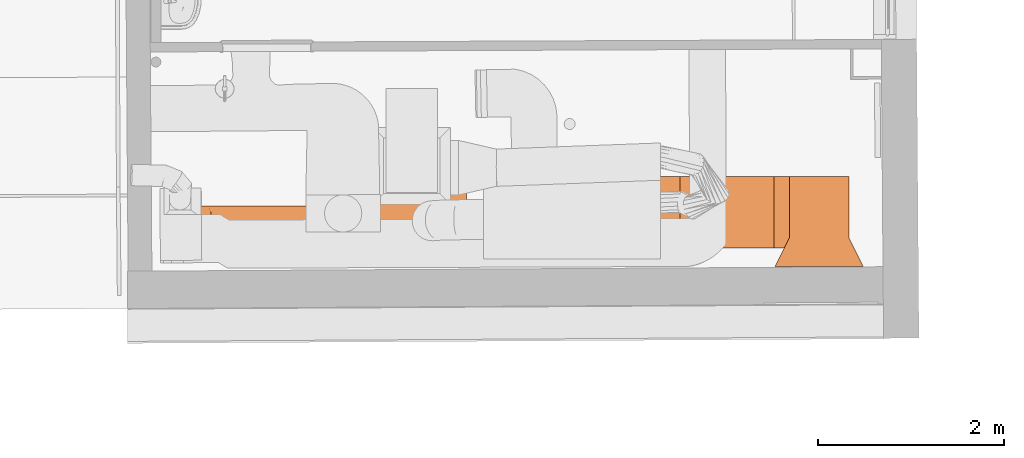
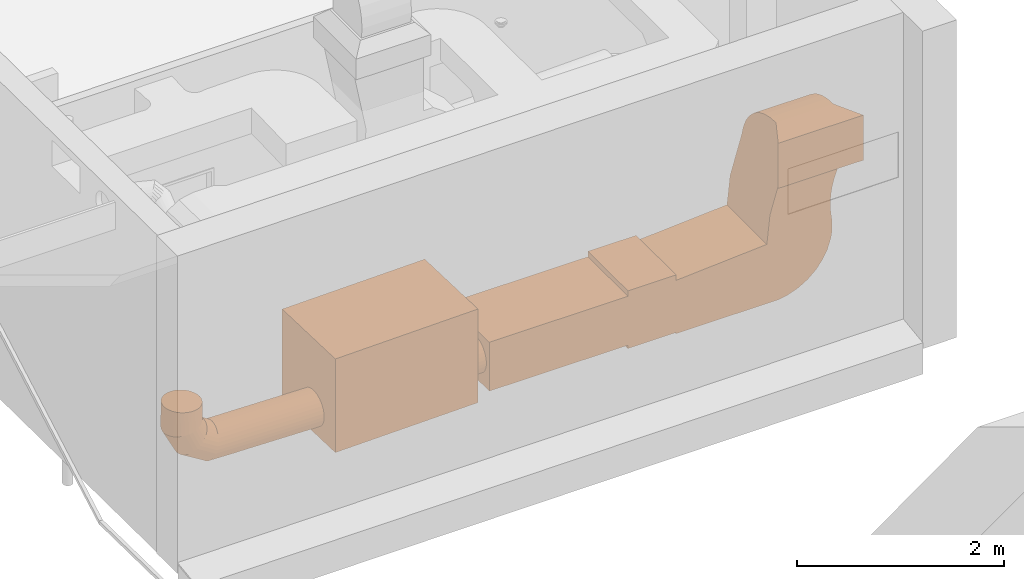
# One storey, part 146 of 158: 1 proxy.
"""IFC2X3 building model written with IfcOpenShell, lengths in metres."""

from ifc_helpers import new_model, entity, si_unit, converted_unit, derived_unit, money_unit, direction, origin_with_axes, place, context, subcontext, project, spatial, faceted_brep, material, type_object, element, save


model = new_model("IFC2X3")

# Units and contexts
model_context = context("Model", 3, precision=1e-05, world=origin_with_axes(), true_north=direction((0.0, 1.0)))
body_context = subcontext(model_context, "Body", "Model", "MODEL_VIEW")
ifc_project = project(units=[si_unit("LENGTHUNIT", "METRE"), si_unit("AREAUNIT", "SQUARE_METRE"), si_unit("VOLUMEUNIT", "CUBIC_METRE"), converted_unit("PLANEANGLEUNIT", "DEGREE", entity("IfcPlaneAngleMeasure", 0.0174532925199), si_unit("PLANEANGLEUNIT", "RADIAN"), dimensions=[0, 0, 0, 0, 0, 0, 0]), money_unit("EUR"), converted_unit("TIMEUNIT", "Year", entity("IfcTimeMeasure", 31556926.0), si_unit("TIMEUNIT", "SECOND"), dimensions=[0, 0, 1, 0, 0, 0, 0]), si_unit("MASSUNIT", "GRAM", prefix="KILO"), si_unit("THERMODYNAMICTEMPERATUREUNIT", "DEGREE_CELSIUS"), si_unit("LUMINOUSINTENSITYUNIT", "LUMEN"), si_unit("ENERGYUNIT", "JOULE", prefix="MEGA"), derived_unit("THERMALCONDUCTANCEUNIT", [(si_unit("POWERUNIT", "WATT"), 1), (si_unit("LENGTHUNIT", "METRE"), -1), (si_unit("THERMODYNAMICTEMPERATUREUNIT", "KELVIN"), -1)]), derived_unit("SPECIFICHEATCAPACITYUNIT", [(si_unit("ENERGYUNIT", "JOULE"), 1), (si_unit("MASSUNIT", "GRAM", prefix="KILO"), -1), (si_unit("THERMODYNAMICTEMPERATUREUNIT", "KELVIN"), -1)]), derived_unit("MASSDENSITYUNIT", [(si_unit("MASSUNIT", "GRAM", prefix="KILO"), 1), (si_unit("VOLUMEUNIT", "CUBIC_METRE"), -1)])], contexts=[model_context])

# Site, building, storey
site_placement = place(None, origin_with_axes())
site = spatial("IfcSite", under=ifc_project, at=site_placement, Name="Gelände", CompositionType="ELEMENT")
building_placement = place(site_placement, origin_with_axes())
building = spatial("IfcBuilding", under=site, at=building_placement, Name="Gebäude", CompositionType="ELEMENT")
storey_placement = place(building_placement, origin_with_axes())
storey = spatial("IfcBuildingStorey", under=building, at=storey_placement, Name="ERDGESCHOSS", CompositionType="ELEMENT", Elevation=0.0)

# Proxy
ifc_material = material(Name="56_Metall, Stahl verzinkt")
building_element_proxy_type = type_object("IfcBuildingElementProxyType", Name="56_Metall, Stahl verzinkt", PredefinedType="NOTDEFINED")
proxy_placement = place(storey_placement, origin_with_axes())
element("IfcBuildingElementProxy", 1, at=proxy_placement, inside=storey, type_object=building_element_proxy_type, material=ifc_material, Name="Morph-329", context=body_context, shape_type="Brep", body=[
    faceted_brep([(-22.8355656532, 31.6433372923, 1.6830409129), (-22.8256352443, 31.6247072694, 1.71735486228), (-23.0716475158, 31.6453656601, 1.82907403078), (-22.5718324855, 31.6421916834, 1.67569865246), (-23.0455167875, 31.626842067, 1.85360860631), (-23.0945396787, 31.6702777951, 1.80756929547), (-22.572284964, 31.6670637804, 1.64538267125), (-22.5713268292, 31.6237102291, 1.71028590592), (-23.1936140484, 31.6231309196, 2.0806824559), (-22.8147344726, 31.6131656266, 1.75458766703), (-23.2257104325, 31.6460790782, 2.07374925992), (-22.8441440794, 31.6683397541, 1.65296448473), (-22.5371284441, 31.6671013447, 1.64538267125), (-22.5371018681, 31.6422287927, 1.67569865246), (-22.5370821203, 31.6237468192, 1.71028590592), (-23.1576021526, 31.606825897, 2.08859248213), (-23.0171516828, 31.6154188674, 1.88023017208), (-23.2526578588, 31.6747884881, 2.06805933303), (-23.1133135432, 31.7006211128, 1.78992081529), (-22.572666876, 31.6973706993, 1.62050298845), (-22.5371608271, 31.697408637, 1.62050298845), (-21.6140948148, 31.6680875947, 1.62330063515), (-21.6140682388, 31.6432150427, 1.65361661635), (-22.570787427, 31.6123296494, 1.74781526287), (-21.6140484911, 31.6247330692, 1.68820386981), (-22.5370699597, 31.6123656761, 1.74781526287), (-23.1932231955, 31.6420939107, 2.35013697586), (-23.1586656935, 31.6236119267, 2.34870269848), (-22.8032822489, 31.6091559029, 1.79330849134), (-23.2235130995, 31.6669664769, 2.3513941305), (-22.8510408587, 31.6987538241, 1.62828139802), (-22.572963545, 31.7319477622, 1.60201571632), (-22.5371977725, 31.7319859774, 1.60201571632), (-21.6141271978, 31.698394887, 1.59842095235), (-21.6100756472, 31.6432193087, 1.65361661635), (-21.6106993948, 31.6680912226, 1.62330063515), (-21.6140363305, 31.6133519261, 1.72573322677), (-21.609612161, 31.6247378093, 1.68820386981), (-22.5370658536, 31.6085227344, 1.78684449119), (-22.570235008, 31.6084872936, 1.78684449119), (-23.1211686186, 31.6122307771, 2.34714641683), (-23.119058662, 31.5977906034, 2.09717536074), (-22.987642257, 31.6115350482, 1.90791567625), (-23.2483713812, 31.6972737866, 2.35242585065), (-23.2734207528, 31.7081558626, 2.06383133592), (-23.12724764, 31.7352295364, 1.77680681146), (-22.5731635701, 31.7694661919, 1.59063131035), (-22.5372378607, 31.7695045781, 1.59063131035), (-21.6141641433, 31.7329722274, 1.57993368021), (-21.6114594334, 31.6983977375, 1.59842095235), (-21.6040685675, 31.4036871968, 1.46866222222), (-21.6040685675, 31.4036871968, 2.57138322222), (-21.6287501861, 32.3878659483, 2.57138322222), (-21.6287501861, 32.3878659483, 1.46866222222), (-21.6123265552, 31.7329741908, 1.57993368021), (-21.6132674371, 31.770491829, 1.56854927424), (-21.6142459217, 31.8095088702, 1.56470523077), (-21.6152244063, 31.8485259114, 1.56857168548), (-21.6161652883, 31.8860435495, 1.57997764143), (-21.61703241, 31.9206200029, 1.59848477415), (-21.6177924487, 31.9509265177, 1.62338186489), (-21.6184161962, 31.9757984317, 1.65371213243), (-21.6188796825, 31.994279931, 1.68831000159), (-21.6191650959, 32.0056607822, 1.72584589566), (-21.6192614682, 32.0095036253, 1.76487733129), (-21.6191650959, 32.0056607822, 1.80390435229), (-21.6188796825, 31.994279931, 1.84142717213), (-21.6184161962, 31.9757984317, 1.87600380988), (-21.6177924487, 31.9509265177, 1.90630550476), (-21.61703241, 31.9206200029, 1.93116777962), (-21.6161652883, 31.8860435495, 1.94963519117), (-21.6152244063, 31.8485259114, 1.96099804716), (-21.6142459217, 31.8095088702, 1.96481967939), (-21.6132674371, 31.770491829, 1.96097563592), (-21.6123265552, 31.7329741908, 1.94959122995), (-21.6114594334, 31.6983977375, 1.93110395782), (-21.6106993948, 31.6680912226, 1.90622427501), (-21.6100756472, 31.6432193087, 1.87590829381), (-21.609612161, 31.6247378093, 1.84132104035), (-21.6093267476, 31.6133569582, 1.80379168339), (-21.6092303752, 31.6095141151, 1.76476245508), (-21.6093267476, 31.6133569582, 1.72573322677), (-21.6140322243, 31.6095089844, 1.76476245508), (-22.5696908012, 31.6123308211, 1.8258737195), (-22.5370699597, 31.6123656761, 1.8258737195), (-23.0056802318, 31.6236119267, 2.34235317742), (-22.9711227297, 31.6420939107, 2.34091890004), (-22.9408328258, 31.6669664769, 2.3396617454), (-22.915974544, 31.6972737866, 2.33863002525), (-22.8975031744, 31.7318511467, 2.33786338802), (-22.8861285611, 31.7693697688, 2.33739129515), (-22.8822878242, 31.8083878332, 2.33723188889), (-22.8861285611, 31.8474058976, 2.33739129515), (-22.8975031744, 31.8849245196, 2.33786338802), (-22.915974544, 31.9195018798, 2.33863002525), (-22.9408328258, 31.9498091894, 2.3396617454), (-22.9711227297, 31.9746817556, 2.34091890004), (-23.0056802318, 31.9931637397, 2.34235317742), (-23.0431773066, 32.0045448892, 2.34390945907), (-23.0821729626, 32.0083878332, 2.34552793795), (-23.1211686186, 32.0045448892, 2.34714641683), (-23.1586656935, 31.9931637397, 2.34870269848), (-23.1932231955, 31.9746817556, 2.35013697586), (-23.2235130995, 31.9498091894, 2.3513941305), (-23.2483713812, 31.9195018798, 2.35242585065), (-23.2668427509, 31.8849245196, 2.35319248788), (-23.2782173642, 31.8474058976, 2.35366458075), (-23.282058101, 31.8083878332, 2.35382398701), (-23.2782173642, 31.7693697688, 2.35366458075), (-23.2668427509, 31.7318511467, 2.35319248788), (-23.0821729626, 31.6083878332, 2.34552793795), (-23.0431773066, 31.6122307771, 2.34390945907), (-22.7917186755, 31.6128321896, 1.83202931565), (-22.8559909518, 31.7334107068, 1.60994020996), (-22.5732592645, 31.8084841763, 1.58678726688), (-22.537279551, 31.8085226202, 1.58678726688), (-21.6142042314, 31.7704908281, 1.56854927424), (-19.9919052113, 31.4441176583, 1.46866222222), (-19.9919052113, 31.4441176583, 2.57138322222), (-20.0165868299, 32.4282964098, 2.57138322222), (-20.0165868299, 32.4282964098, 1.46866222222), (-22.5373212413, 31.8475406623, 1.59063131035), (-22.5373613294, 31.885059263, 1.60201571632), (-22.5373982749, 31.9196366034, 1.62050298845), (-22.5374306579, 31.9499438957, 1.64538267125), (-22.5374572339, 31.9748164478, 1.67569865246), (-22.5374769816, 31.9932984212, 1.71028590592), (-22.5374891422, 32.0046795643, 1.74781526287), (-22.5374932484, 32.0085225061, 1.78684449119), (-22.5374891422, 32.0046795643, 1.8258737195), (-22.5374769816, 31.9932984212, 1.86340307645), (-22.5374572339, 31.9748164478, 1.89799032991), (-22.5374306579, 31.9499438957, 1.92830631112), (-22.5373982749, 31.9196366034, 1.95318599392), (-22.5373613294, 31.885059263, 1.97167326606), (-22.5373212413, 31.8475406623, 1.98305767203), (-22.537279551, 31.8085226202, 1.9869017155), (-21.6142042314, 31.7704908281, 1.96097563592), (-21.6141641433, 31.7329722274, 1.94959122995), (-21.6141271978, 31.698394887, 1.93110395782), (-21.6140948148, 31.6680875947, 1.90622427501), (-21.6140682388, 31.6432150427, 1.87590829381), (-21.6140484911, 31.6247330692, 1.84132104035), (-21.6140363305, 31.6133519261, 1.80379168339), (-22.5370821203, 31.6237468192, 1.86340307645), (-22.5691757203, 31.6237125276, 1.86340307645), (-23.003194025, 31.6163096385, 2.12361003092), (-22.9694481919, 31.6368991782, 2.13152005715), (-22.9404014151, 31.6636027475, 2.13845325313), (-22.9171699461, 31.6953941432, 2.14414318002), (-22.9006465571, 31.7310516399, 2.14837117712), (-22.8914662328, 31.7692049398, 2.15097476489), (-22.8899817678, 31.8083878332, 2.15185388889), (-22.8962502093, 31.8470945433, 2.15097476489), (-22.9100306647, 31.883837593, 2.14837117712), (-22.9307935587, 31.9172049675, 2.14414318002), (-22.9577409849, 31.9459143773, 2.13845325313), (-22.989837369, 31.968862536, 2.13152005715), (-23.0258492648, 31.9851675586, 2.12361003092), (-23.0643927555, 31.9942028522, 2.1150271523), (-23.1039866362, 31.9956211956, 2.10610125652), (-23.1431093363, 31.9893680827, 2.09717536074), (-23.1802573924, 31.9756838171, 2.08859248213), (-23.2140032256, 31.9550942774, 2.0806824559), (-23.2430500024, 31.9283907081, 2.07374925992), (-23.2662814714, 31.8965993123, 2.06805933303), (-23.2828048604, 31.8609418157, 2.06383133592), (-23.2919851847, 31.8227885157, 2.06122774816), (-23.2934696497, 31.7836056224, 2.06034862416), (-23.2872012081, 31.7448989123, 2.06122774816), (-23.0794647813, 31.5963722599, 2.10610125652), (-23.0403420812, 31.6026253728, 2.1150271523), (-22.9581225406, 31.6153398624, 1.93560118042), (-23.1358064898, 31.7727730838, 1.76873124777), (-22.8588041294, 31.7709785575, 1.59864576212), (-22.5732469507, 31.8475022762, 1.59063131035), (-19.9969415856, 31.6449429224, 1.65361661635), (-19.9964780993, 31.626461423, 1.68820386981), (-19.9961926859, 31.6150805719, 1.72573322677), (-19.9960963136, 31.6112377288, 1.76476245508), (-19.9961926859, 31.6150805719, 1.80379168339), (-19.9964780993, 31.626461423, 1.84132104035), (-19.9969415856, 31.6449429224, 1.87590829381), (-19.9975653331, 31.6698148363, 1.90622427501), (-19.9983253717, 31.7001213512, 1.93110395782), (-19.9991924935, 31.7346978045, 1.94959122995), (-20.0001333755, 31.7722154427, 1.96097563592), (-20.0011118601, 31.8112324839, 1.96481967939), (-20.0020903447, 31.8502495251, 1.96097563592), (-20.0030312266, 31.8877671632, 1.94959122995), (-20.0038983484, 31.9223436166, 1.93110395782), (-20.004658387, 31.9526501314, 1.90622427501), (-20.0052821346, 31.9775220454, 1.87590829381), (-20.0057456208, 31.9960035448, 1.84132104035), (-20.0060310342, 32.0073843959, 1.80379168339), (-20.0061274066, 32.011227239, 1.76476245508), (-20.0060310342, 32.0073843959, 1.72573322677), (-20.0057456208, 31.9960035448, 1.68820386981), (-20.0052821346, 31.9775220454, 1.65361661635), (-20.004658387, 31.9526501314, 1.62330063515), (-20.0038983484, 31.9223436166, 1.59842095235), (-20.0030312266, 31.8877671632, 1.57993368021), (-20.0020903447, 31.8502495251, 1.56854927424), (-20.0011118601, 31.8112324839, 1.56470523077), (-20.0001333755, 31.7722154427, 1.56854927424), (-19.9991924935, 31.7346978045, 1.57993368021), (-19.9983253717, 31.7001213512, 1.59842095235), (-19.9975653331, 31.6698148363, 1.62330063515), (-22.5731271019, 31.8850210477, 1.60201571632), (-22.5729043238, 31.9195986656, 1.62050298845), (-22.5725871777, 31.9499063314, 1.64538267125), (-22.5721878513, 31.9747793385, 1.67569865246), (-22.5717216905, 31.9932618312, 1.71028590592), (-22.5712066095, 32.0046435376, 1.74781526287), (-22.5706624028, 32.0084870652, 1.78684449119), (-22.5701099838, 32.0046447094, 1.8258737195), (-22.5695705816, 31.9932641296, 1.86340307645), (-22.5690649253, 31.9747826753, 1.89799032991), (-22.5686124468, 31.9499105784, 1.92830631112), (-22.5682305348, 31.9196036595, 1.95318599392), (-22.5679338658, 31.8850265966, 1.97167326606), (-22.5677338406, 31.8475081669, 1.98305767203), (-22.5676381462, 31.8084901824, 1.9869017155), (-22.5372378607, 31.7695045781, 1.98305767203), (-22.5371977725, 31.7319859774, 1.97167326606), (-22.5371608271, 31.697408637, 1.95318599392), (-22.5371284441, 31.6671013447, 1.92830631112), (-22.5371018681, 31.6422287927, 1.89799032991), (-22.7804881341, 31.6240532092, 1.8692621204), (-22.5687095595, 31.6421950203, 1.89799032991), (-22.8593722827, 31.8100136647, 1.59483209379), (-19.8014756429, 31.6451517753, 1.65361661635), (-19.8014756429, 31.6266697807, 1.68820386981), (-19.8014756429, 31.6152886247, 1.72573322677), (-19.8014756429, 31.6114456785, 1.76476245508), (-19.8014756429, 31.6152886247, 1.80379168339), (-19.8014756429, 31.6266697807, 1.84132104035), (-19.8014756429, 31.6451517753, 1.87590829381), (-19.8014756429, 31.6700243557, 1.90622427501), (-19.8014756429, 31.7003316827, 1.93110395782), (-19.8014756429, 31.7349090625, 1.94959122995), (-19.8014756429, 31.772427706, 1.96097563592), (-19.8014756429, 31.8114457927, 1.96481967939), (-19.8014756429, 31.8504638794, 1.96097563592), (-19.8014756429, 31.8879825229, 1.94959122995), (-19.8014756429, 31.9225599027, 1.93110395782), (-19.8014756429, 31.9528672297, 1.90622427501), (-19.8014756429, 31.9777398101, 1.87590829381), (-19.8014756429, 31.9962218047, 1.84132104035), (-19.8014756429, 32.0076029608, 1.80379168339), (-19.8014756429, 32.0114459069, 1.76476245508), (-19.8014756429, 32.0076029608, 1.72573322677), (-19.8014756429, 31.9962218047, 1.68820386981), (-19.8014756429, 31.9777398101, 1.65361661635), (-19.8014756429, 31.9528672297, 1.62330063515), (-19.8014756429, 31.9225599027, 1.59842095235), (-19.8014756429, 31.8879825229, 1.57993368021), (-19.8014756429, 31.8504638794, 1.56854927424), (-19.8014756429, 31.8114457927, 1.56470523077), (-19.8014756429, 31.772427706, 1.56854927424), (-19.8014756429, 31.7349090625, 1.57993368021), (-19.8014756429, 31.7003316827, 1.59842095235), (-19.8014756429, 31.6700243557, 1.62330063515), (-22.8576735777, 31.8490159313, 1.59864576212), (-22.8537732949, 31.886486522, 1.60994020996), (-22.8478213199, 31.920985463, 1.62828139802), (-22.8400463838, 31.9511869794, 1.65296448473), (-22.8307472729, 31.9759304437, 1.6830409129), (-22.8202813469, 31.9942649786, 1.71735486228), (-22.8090508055, 32.0054859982, 1.75458766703), (-22.7974872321, 32.0091622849, 1.79330849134), (-22.7860350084, 32.0051525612, 1.83202931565), (-22.7751342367, 31.9936109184, 1.8692621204), (-22.7652038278, 31.9749808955, 1.90357606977), (-22.7566254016, 31.9499784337, 1.93365249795), (-22.7497286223, 31.9195643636, 1.95833558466), (-22.7447785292, 31.884907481, 1.97667677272), (-22.7419653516, 31.8473396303, 1.98797122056), (-22.5676504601, 31.7694720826, 1.98305767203), (-22.5677703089, 31.7319533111, 1.97167326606), (-22.567993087, 31.6973756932, 1.95318599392), (-22.5683102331, 31.6670680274, 1.92830631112), (-22.7700222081, 31.6423877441, 1.90357606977), (-22.9297269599, 31.6266870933, 1.96222274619), (-22.903546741, 31.6451406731, 1.98675732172), (-22.8805879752, 31.669991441, 2.00826205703), (-22.8617329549, 31.700284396, 2.0259105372), (-22.8477062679, 31.7348553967, 2.03902454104), (-22.839046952, 31.7723758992, 2.04710010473), (-22.8360877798, 31.8114040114, 2.04982688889), (-22.8389424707, 31.8504399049, 2.04710010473), (-22.8475013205, 31.8879834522, 2.03902454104), (-22.8614354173, 31.9225918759, 2.0259105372), (-22.8802092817, 31.9529351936, 2.00826205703), (-22.9031014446, 31.9778473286, 1.98675732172), (-22.929232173, 31.9963709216, 1.96222274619), (-22.9575972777, 32.0077941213, 1.93560118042), (-22.9871067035, 32.0116779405, 1.90791567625), (-23.0166264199, 32.0078731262, 1.88023017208), (-23.0450220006, 31.9965258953, 1.85360860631), (-23.0712022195, 31.9780723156, 1.82907403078), (-23.0941609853, 31.9532215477, 1.80756929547), (-23.1130160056, 31.9229285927, 1.78992081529), (-23.1270426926, 31.8883575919, 1.77680681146), (-23.1357020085, 31.8508370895, 1.76873124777), (-23.1386611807, 31.8118089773, 1.76600446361), (-19.8014756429, 31.556467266, 1.46866222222), (-19.8014756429, 31.556467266, 2.04505022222), (-19.8014756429, 32.3267529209, 2.04505022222), (-19.8014756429, 32.3267529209, 1.46866222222), (-22.7413971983, 31.808304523, 1.99178488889), (-22.7430959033, 31.7693022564, 1.98797122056), (-22.7469961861, 31.7318316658, 1.97667677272), (-22.7529481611, 31.6973327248, 1.95833558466), (-22.7607230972, 31.6671312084, 1.93365249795), (-18.2565736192, 31.556467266, 1.46866222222), (-18.2565736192, 31.556467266, 1.43026222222), (-17.7204124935, 31.556467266, 1.43026222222), (-17.7204124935, 31.556467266, 1.41761822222), (-16.7095032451, 31.556467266, 1.41761822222), (-16.5896255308, 31.556467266, 1.41731679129), (-16.4716319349, 31.556467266, 1.43848914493), (-16.3593377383, 31.556467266, 1.48045068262), (-16.2563739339, 31.556467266, 1.54184459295), (-16.1660698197, 31.556467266, 1.62068572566), (-16.0913453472, 31.556467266, 1.71442478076), (-16.0346167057, 31.556467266, 1.82003073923), (-15.9977181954, 31.556467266, 1.93408886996), (-15.9915823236, 31.556467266, 1.96488059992), (-15.9868663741, 31.556467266, 1.99592153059), (-15.9835802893, 31.556467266, 2.0271462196), (-15.9817309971, 31.556467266, 2.05848883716), (-15.9813223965, 31.556467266, 2.08988330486), (-15.9823553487, 31.556467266, 2.12126343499), (-15.9848276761, 31.556467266, 2.15256307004), (-15.9887341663, 31.556467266, 2.18371622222), (-15.9978188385, 31.556467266, 2.25782792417), (-16.0013052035, 31.556467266, 2.33241291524), (-15.9991735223, 31.556467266, 2.40704890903), (-15.9914358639, 31.556467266, 2.48131333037), (-15.9781360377, 31.556467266, 2.55478570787), (-15.9593493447, 31.556467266, 2.62705005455), (-15.9351821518, 31.556467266, 2.69769722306), (-15.905771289, 31.556467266, 2.76632722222), (-15.905771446, 31.556467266, 2.89170022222), (-16.5440670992, 31.556467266, 2.89170022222), (-16.6745934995, 31.556467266, 2.44911422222), (-16.7095032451, 31.556467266, 2.11517322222), (-17.7204124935, 31.556467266, 2.04505022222), (-17.7204124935, 31.556467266, 2.10889022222), (-18.2565736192, 31.556467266, 2.10889022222), (-18.2565736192, 31.556467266, 2.04505022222), (-18.2565736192, 32.3267529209, 2.04505022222), (-18.2565736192, 32.3267529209, 2.10889022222), (-17.7204124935, 32.3267529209, 2.10889022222), (-17.7204124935, 32.3267529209, 2.04505022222), (-16.7095032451, 32.3267529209, 2.11517322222), (-16.6745934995, 32.3267529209, 2.44911422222), (-16.5440670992, 32.3267529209, 2.89170022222), (-15.905771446, 32.3267529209, 2.89170022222), (-15.905771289, 32.3267529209, 2.76632722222), (-15.9351821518, 32.3267529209, 2.69769722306), (-15.9593493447, 32.3267529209, 2.62705005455), (-15.9781360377, 32.3267529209, 2.55478570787), (-15.9914358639, 32.3267529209, 2.48131333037), (-15.9991735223, 32.3267529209, 2.40704890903), (-16.0013052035, 32.3267529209, 2.33241291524), (-15.9978188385, 32.3267529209, 2.25782792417), (-15.9887341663, 32.3267529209, 2.18371622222), (-15.9848276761, 32.3267529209, 2.15256307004), (-15.9823553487, 32.3267529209, 2.12126343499), (-15.9813223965, 32.3267529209, 2.08988330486), (-15.9817309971, 32.3267529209, 2.05848883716), (-15.9835802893, 32.3267529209, 2.0271462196), (-15.9868663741, 32.3267529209, 1.99592153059), (-15.9915823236, 32.3267529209, 1.96488059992), (-15.9977181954, 32.3267529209, 1.93408886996), (-16.0346167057, 32.3267529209, 1.82003073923), (-16.0913453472, 32.3267529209, 1.71442478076), (-16.1660698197, 32.3267529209, 1.62068572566), (-16.2563739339, 32.3267529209, 1.54184459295), (-16.3593377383, 32.3267529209, 1.48045068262), (-16.4716319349, 32.3267529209, 1.43848914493), (-16.5896255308, 32.3267529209, 1.41731679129), (-16.7095032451, 32.3267529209, 1.41761822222), (-17.7204124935, 32.3267529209, 1.41761822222), (-17.7204124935, 32.3267529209, 1.43026222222), (-18.2565736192, 32.3267529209, 1.43026222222), (-18.2565736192, 32.3267529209, 1.46866222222), (-15.9057717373, 32.295272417, 3.00236090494), (-15.905771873, 32.244901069, 3.10579853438), (-15.905771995, 32.1771952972, 3.19881758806), (-15.9057720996, 32.0942472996, 3.27854365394), (-15.9057721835, 31.9986202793, 3.34251309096), (-15.9057722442, 31.893269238, 3.38874915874), (-15.9057722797, 31.7814496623, 3.41582310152), (-15.905772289, 31.6666169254, 3.42289829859), (-16.6985391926, 31.3562966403, 2.89170001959), (-15.7492884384, 31.3562964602, 2.89170126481), (-16.5440671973, 32.2952725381, 3.00236006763), (-16.5440673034, 32.2449011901, 3.10579769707), (-16.5440674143, 32.1771954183, 3.19881675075), (-16.5440675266, 32.0942474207, 3.27854281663), (-16.5440676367, 31.9986204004, 3.34251225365), (-16.5440677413, 31.8932693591, 3.38874832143), (-16.5440678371, 31.7814497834, 3.41582226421), (-16.5440679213, 31.6666170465, 3.42289746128), (-15.7492891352, 31.3562964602, 3.42289850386), (-16.6985400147, 31.3562966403, 3.42289725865)], [[[0, 1, 2]], [[1, 0, 3]], [[4, 2, 1]], [[2, 5, 0]], [[0, 6, 3]], [[7, 1, 3]], [[8, 2, 4]], [[4, 1, 9]], [[2, 10, 5]], [[11, 0, 5]], [[6, 0, 11]], [[3, 6, 12, 13]], [[1, 7, 9]], [[7, 3, 13, 14]], [[2, 8, 10]], [[15, 8, 4]], [[16, 4, 9]], [[5, 10, 17]], [[5, 18, 11]], [[6, 11, 19]], [[12, 6, 19, 20]], [[13, 12, 21, 22]], [[9, 7, 23]], [[24, 14, 13, 22]], [[25, 23, 7, 14]], [[10, 8, 26]], [[8, 15, 27]], [[15, 4, 16]], [[16, 9, 28]], [[10, 29, 17]], [[18, 5, 17]], [[18, 30, 11]], [[30, 19, 11]], [[19, 31, 32, 20]], [[20, 33, 21, 12]], [[34, 22, 21, 35]], [[28, 9, 23]], [[14, 24, 36, 25]], [[24, 22, 34, 37]], [[23, 25, 38, 39]], [[26, 8, 27]], [[10, 26, 29]], [[27, 15, 40]], [[15, 16, 41]], [[42, 16, 28]], [[17, 29, 43]], [[44, 18, 17]], [[18, 45, 30]], [[19, 30, 31]], [[31, 46, 47, 32]], [[32, 48, 33, 20]], [[33, 49, 35, 21]], [[50, 51, 52, 53], [37, 34, 35, 49, 54, 55, 56, 57, 58, 59, 60, 61, 62, 63, 64, 65, 66, 67, 68, 69, 70, 71, 72, 73, 74, 75, 76, 77, 78, 79, 80, 81]], [[23, 39, 28]], [[81, 36, 24, 37]], [[38, 25, 36, 82]], [[83, 39, 38, 84]], [[85, 86, 87, 88, 89, 90, 91, 92, 93, 94, 95, 96, 97, 98, 99, 100, 101, 102, 103, 104, 105, 106, 107, 108, 109, 43, 29, 26, 27, 40, 110, 111]], [[15, 41, 40]], [[16, 42, 41]], [[42, 28, 112]], [[44, 17, 43]], [[45, 18, 44]], [[45, 113, 30]], [[113, 31, 30]], [[31, 113, 46]], [[46, 114, 115, 47]], [[48, 32, 47, 116]], [[33, 48, 54, 49]], [[50, 117, 118, 51]], [[51, 118, 119, 52]], [[120, 53, 52, 119]], [[117, 50, 53, 120]], [[48, 116, 55, 54]], [[55, 116, 56]], [[115, 121, 57, 56]], [[57, 121, 122, 58]], [[122, 123, 59, 58]], [[123, 124, 60, 59]], [[124, 125, 61, 60]], [[61, 125, 126, 62]], [[62, 126, 127, 63]], [[127, 128, 64, 63]], [[65, 64, 128, 129]], [[65, 129, 130, 66]], [[131, 67, 66, 130]], [[67, 131, 132, 68]], [[133, 69, 68, 132]], [[69, 133, 134, 70]], [[71, 70, 134, 135]], [[72, 71, 135, 136]], [[72, 137, 73]], [[138, 74, 73, 137]], [[138, 139, 75, 74]], [[139, 140, 76, 75]], [[141, 77, 76, 140]], [[142, 78, 77, 141]], [[142, 143, 79, 78]], [[143, 82, 80, 79]], [[36, 81, 80, 82]], [[28, 39, 112]], [[82, 143, 84, 38]], [[83, 112, 39]], [[83, 84, 144, 145]], [[85, 146, 86]], [[147, 87, 86]], [[87, 148, 88]], [[149, 89, 88]], [[89, 150, 90]], [[90, 151, 91]], [[91, 152, 92]], [[92, 153, 93]], [[93, 154, 94]], [[94, 155, 95]], [[95, 156, 96]], [[157, 97, 96]], [[158, 98, 97]], [[98, 159, 99]], [[160, 100, 99]], [[161, 101, 100]], [[162, 102, 101]], [[163, 103, 102]], [[164, 104, 103]], [[165, 105, 104]], [[166, 106, 105]], [[167, 107, 106]], [[168, 108, 107]], [[108, 169, 109]], [[44, 43, 109]], [[40, 41, 110]], [[110, 170, 111]], [[171, 85, 111]], [[41, 42, 170]], [[172, 42, 112]], [[169, 45, 44]], [[45, 173, 113]], [[113, 174, 46]], [[174, 114, 46]], [[114, 175, 121, 115]], [[116, 47, 115, 56]], [[118, 117, 120, 119], [176, 177, 178, 179, 180, 181, 182, 183, 184, 185, 186, 187, 188, 189, 190, 191, 192, 193, 194, 195, 196, 197, 198, 199, 200, 201, 202, 203, 204, 205, 206, 207]], [[175, 208, 122, 121]], [[122, 208, 209, 123]], [[123, 209, 210, 124]], [[124, 210, 211, 125]], [[211, 212, 126, 125]], [[126, 212, 213, 127]], [[127, 213, 214, 128]], [[214, 215, 129, 128]], [[215, 216, 130, 129]], [[216, 217, 131, 130]], [[131, 217, 218, 132]], [[218, 219, 133, 132]], [[219, 220, 134, 133]], [[220, 221, 135, 134]], [[221, 222, 136, 135]], [[137, 72, 136, 223]], [[224, 138, 137, 223]], [[224, 225, 139, 138]], [[225, 226, 140, 139]], [[227, 141, 140, 226]], [[144, 142, 141, 227]], [[84, 143, 142, 144]], [[112, 83, 228]], [[229, 145, 144, 227]], [[228, 83, 145]], [[171, 146, 85]], [[146, 147, 86]], [[147, 148, 87]], [[148, 149, 88]], [[149, 150, 89]], [[150, 151, 90]], [[151, 152, 91]], [[152, 153, 92]], [[153, 154, 93]], [[155, 94, 154]], [[155, 156, 95]], [[157, 96, 156]], [[157, 158, 97]], [[159, 98, 158]], [[159, 160, 99]], [[160, 161, 100]], [[161, 162, 101]], [[162, 163, 102]], [[163, 164, 103]], [[164, 165, 104]], [[165, 166, 105]], [[166, 167, 106]], [[167, 168, 107]], [[168, 169, 108]], [[169, 44, 109]], [[41, 170, 110]], [[170, 171, 111]], [[42, 172, 170]], [[112, 228, 172]], [[45, 169, 173]], [[174, 113, 173]], [[114, 174, 230]], [[114, 230, 175]], [[177, 176, 231, 232]], [[178, 177, 232, 233]], [[179, 178, 233, 234]], [[180, 179, 234, 235]], [[181, 180, 235, 236]], [[182, 181, 236, 237]], [[183, 182, 237, 238]], [[184, 183, 238, 239]], [[185, 184, 239, 240]], [[186, 185, 240, 241]], [[187, 186, 241, 242]], [[188, 187, 242, 243]], [[189, 188, 243, 244]], [[190, 189, 244, 245]], [[191, 190, 245, 246]], [[192, 191, 246, 247]], [[193, 192, 247, 248]], [[249, 194, 193, 248]], [[195, 194, 249, 250]], [[196, 195, 250, 251]], [[197, 196, 251, 252]], [[198, 197, 252, 253]], [[199, 198, 253, 254]], [[200, 199, 254, 255]], [[201, 200, 255, 256]], [[202, 201, 256, 257]], [[203, 202, 257, 258]], [[204, 203, 258, 259]], [[205, 204, 259, 260]], [[206, 205, 260, 261]], [[207, 206, 261, 262]], [[176, 207, 262, 231]], [[175, 263, 208]], [[208, 264, 209]], [[210, 209, 265]], [[210, 266, 211]], [[211, 267, 212]], [[212, 268, 213]], [[214, 213, 269]], [[214, 270, 215]], [[271, 216, 215]], [[272, 217, 216]], [[217, 273, 218]], [[218, 274, 219]], [[275, 220, 219]], [[220, 276, 221]], [[277, 222, 221]], [[222, 278, 223, 136]], [[279, 224, 223, 278]], [[279, 280, 225, 224]], [[280, 281, 226, 225]], [[229, 227, 226, 281]], [[282, 145, 229]], [[282, 228, 145]], [[171, 283, 146]], [[284, 147, 146]], [[148, 147, 285]], [[286, 149, 148]], [[150, 149, 287]], [[151, 150, 288]], [[152, 151, 289]], [[153, 152, 290]], [[154, 153, 291]], [[292, 155, 154]], [[293, 156, 155]], [[156, 294, 157]], [[157, 295, 158]], [[158, 296, 159]], [[297, 160, 159]], [[298, 161, 160]], [[299, 162, 161]], [[163, 162, 300]], [[301, 164, 163]], [[302, 165, 164]], [[166, 165, 303]], [[167, 166, 304]], [[305, 168, 167]], [[169, 168, 173]], [[170, 172, 171]], [[283, 172, 228]], [[173, 305, 174]], [[230, 174, 305]], [[230, 263, 175]], [[306, 307, 308, 309], [250, 249, 248, 247, 246, 245, 244, 243, 242, 241, 240, 239, 238, 237, 236, 235, 234, 233, 232, 231, 262, 261, 260, 259, 258, 257, 256, 255, 254, 253, 252, 251]], [[263, 264, 208]], [[209, 264, 265]], [[210, 265, 266]], [[266, 267, 211]], [[212, 267, 268]], [[213, 268, 269]], [[214, 269, 270]], [[270, 271, 215]], [[216, 271, 272]], [[273, 217, 272]], [[274, 218, 273]], [[274, 275, 219]], [[220, 275, 276]], [[276, 277, 221]], [[277, 310, 222]], [[310, 278, 222]], [[311, 279, 278]], [[312, 280, 279]], [[313, 281, 280]], [[314, 229, 281]], [[282, 229, 314]], [[228, 282, 283]], [[172, 283, 171]], [[283, 284, 146]], [[147, 284, 285]], [[285, 286, 148]], [[149, 286, 287]], [[150, 287, 288]], [[151, 288, 289]], [[152, 289, 290]], [[291, 153, 290]], [[292, 154, 291]], [[292, 293, 155]], [[156, 293, 294]], [[294, 295, 157]], [[295, 296, 158]], [[296, 297, 159]], [[297, 298, 160]], [[299, 161, 298]], [[162, 299, 300]], [[301, 163, 300]], [[301, 302, 164]], [[303, 165, 302]], [[304, 166, 303]], [[305, 167, 304]], [[168, 305, 173]], [[305, 304, 230]], [[263, 230, 304]], [[307, 306, 315, 316, 317, 318, 319, 320, 321, 322, 323, 324, 325, 326, 327, 328, 329, 330, 331, 332, 333, 334, 335, 336, 337, 338, 339, 340, 341, 342, 343, 344, 345, 346, 347, 348, 349, 350, 351]], [[308, 307, 351, 352]], [[309, 308, 352, 353, 354, 355, 356, 357, 358, 359, 360, 361, 362, 363, 364, 365, 366, 367, 368, 369, 370, 371, 372, 373, 374, 375, 376, 377, 378, 379, 380, 381, 382, 383, 384, 385, 386, 387, 388]], [[306, 309, 388, 315]], [[264, 263, 303]], [[264, 302, 265]], [[266, 265, 301]], [[267, 266, 300]], [[268, 267, 299]], [[269, 268, 298]], [[270, 269, 297]], [[271, 270, 296]], [[272, 271, 295]], [[272, 294, 273]], [[273, 293, 274]], [[275, 274, 292]], [[276, 275, 291]], [[277, 276, 290]], [[310, 277, 289]], [[310, 311, 278]], [[312, 279, 311]], [[280, 312, 313]], [[281, 313, 314]], [[284, 282, 314]], [[284, 283, 282]], [[285, 284, 314]], [[286, 285, 313]], [[286, 312, 287]], [[288, 287, 311]], [[289, 288, 310]], [[290, 289, 277]], [[291, 290, 276]], [[275, 292, 291]], [[293, 292, 274]], [[294, 293, 273]], [[295, 294, 272]], [[296, 295, 271]], [[297, 296, 270]], [[298, 297, 269]], [[299, 298, 268]], [[300, 299, 267]], [[301, 300, 266]], [[302, 301, 265]], [[303, 302, 264]], [[304, 303, 263]], [[316, 315, 388, 387]], [[317, 316, 387, 386]], [[318, 317, 386, 385]], [[319, 318, 385, 384]], [[320, 319, 384, 383]], [[321, 320, 383, 382]], [[322, 321, 382, 381]], [[323, 322, 381, 380]], [[324, 323, 380, 379]], [[325, 324, 379, 378]], [[326, 325, 378, 377]], [[327, 326, 377, 376]], [[328, 327, 376, 375]], [[329, 328, 375, 374]], [[330, 329, 374, 373]], [[331, 330, 373, 372]], [[332, 331, 372, 371]], [[333, 332, 371, 370]], [[334, 333, 370, 369]], [[335, 334, 369, 368]], [[336, 335, 368, 367]], [[337, 336, 367, 366]], [[338, 337, 366, 365]], [[339, 338, 365, 364]], [[340, 339, 364, 363]], [[341, 340, 363, 362]], [[342, 341, 362, 361]], [[343, 342, 361, 360]], [[344, 343, 360, 359, 389, 390, 391, 392, 393, 394, 395, 396]], [[397, 345, 344, 398]], [[346, 345, 358, 357]], [[347, 346, 357, 356]], [[348, 347, 356, 355]], [[349, 348, 355, 354]], [[350, 349, 354, 353]], [[351, 350, 353, 352]], [[359, 358, 399, 389]], [[311, 310, 288]], [[312, 311, 287]], [[286, 313, 312]], [[285, 314, 313]], [[399, 400, 390, 389]], [[400, 401, 391, 390]], [[401, 402, 392, 391]], [[403, 393, 392, 402]], [[403, 404, 394, 393]], [[405, 395, 394, 404]], [[405, 406, 396, 395]], [[407, 344, 396]], [[345, 397, 408]], [[398, 344, 407]], [[408, 397, 398, 407]], [[406, 405, 404, 403, 402, 401, 400, 399, 358, 345]], [[408, 407, 396, 406]], [[345, 408, 406]]]),
])

save(model, "model.ifc")
